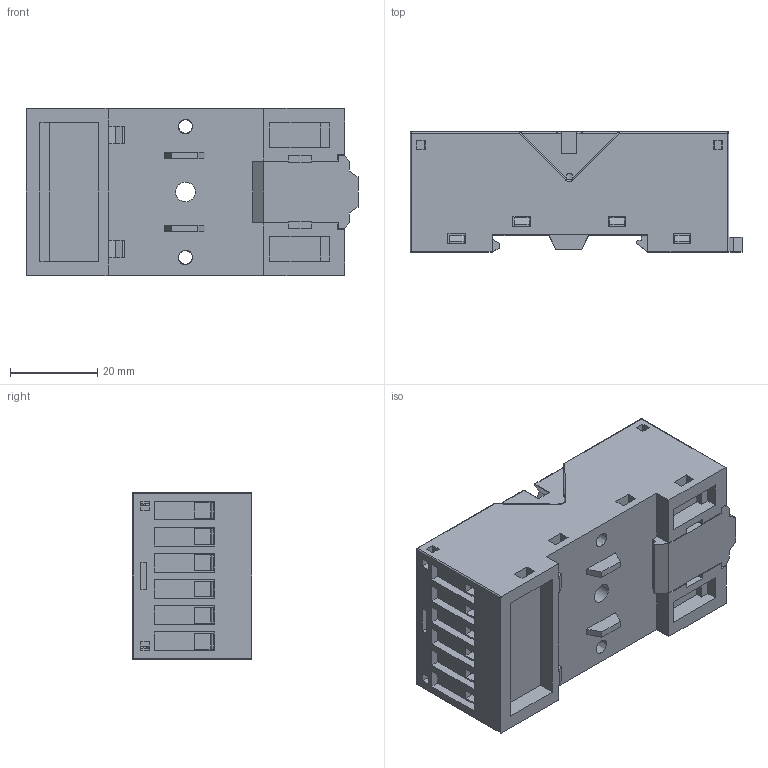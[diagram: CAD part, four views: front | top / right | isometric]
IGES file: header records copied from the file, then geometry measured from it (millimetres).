
Global section: file name: VG-11T; native system: Autodesk Inventor 2020; preprocessor: unknown; organization: Mors Smitt; date: 20210603.145430; units: millimetre
Bounding box: 76.1 x 27.5 x 38.3 mm (x, y, z)
Volume: 60296.6 mm3; surface area: 23669.4 mm2
Topology: 13 solids, 13 shells, 1694 faces, 4277 edges, 2579 vertices
Faces by surface type: bspline 1694
